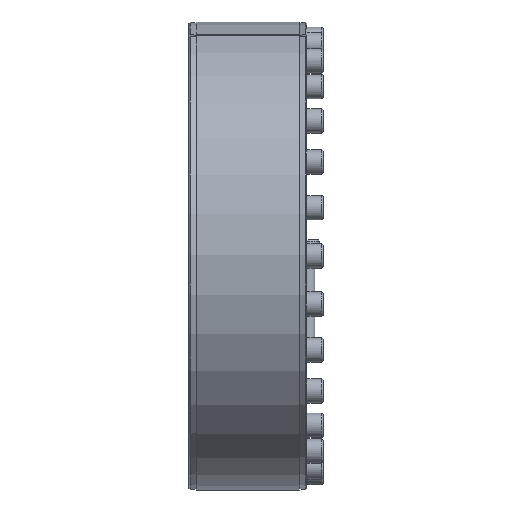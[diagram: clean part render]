
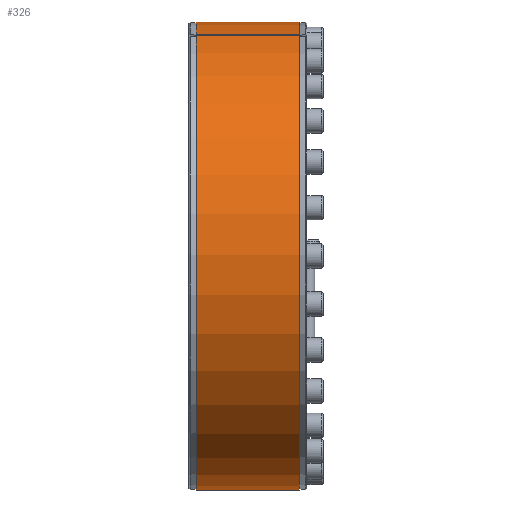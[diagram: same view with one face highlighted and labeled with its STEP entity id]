
A CAD part, left-side view. The second image highlights one B-rep face of the part: STEP entity #326.
In plain terms, the highlighted cylindrical face has radius 317.5 mm (diameter 635 mm), a partial arc.
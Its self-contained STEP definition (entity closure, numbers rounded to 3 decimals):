
#326 = ADVANCED_FACE( '', ( #839 ), #840, .T. );
#839 = FACE_OUTER_BOUND( '', #1491, .T. );
#840 = CYLINDRICAL_SURFACE( '', #1492, 317.5 );
#1491 = EDGE_LOOP( '', ( #2428, #2429, #2430, #2431 ) );
#1492 = AXIS2_PLACEMENT_3D( '', #2432, #2433, #2434 );
#2428 = ORIENTED_EDGE( '', *, *, #2839, .T. );
#2429 = ORIENTED_EDGE( '', *, *, #3052, .T. );
#2430 = ORIENTED_EDGE( '', *, *, #3044, .F. );
#2431 = ORIENTED_EDGE( '', *, *, #2908, .T. );
#2432 = CARTESIAN_POINT( '', ( 0., -60., 0. ) );
#2433 = DIRECTION( '', ( 0., 1., 0. ) );
#2434 = DIRECTION( '', ( 0., 0., -1. ) );
#2839 = EDGE_CURVE( '', #3318, #3316, #3319, .T. );
#2908 = EDGE_CURVE( '', #3436, #3318, #3437, .F. );
#3044 = EDGE_CURVE( '', #3436, #3650, #3651, .T. );
#3052 = EDGE_CURVE( '', #3316, #3650, #3662, .T. );
#3316 = VERTEX_POINT( '', #4041 );
#3318 = VERTEX_POINT( '', #4044 );
#3319 = CIRCLE( '', #4045, 317.5 );
#3436 = VERTEX_POINT( '', #4184 );
#3437 = LINE( '', #4185, #4186 );
#3650 = VERTEX_POINT( '', #4443 );
#3651 = CIRCLE( '', #4444, 317.5 );
#3662 = LINE( '', #4456, #4457 );
#4041 = CARTESIAN_POINT( '', ( -101.554, 150., 300.821 ) );
#4044 = CARTESIAN_POINT( '', ( -108.161, 150., 298.509 ) );
#4045 = AXIS2_PLACEMENT_3D( '', #4755, #4756, #4757 );
#4184 = CARTESIAN_POINT( '', ( -108.161, 10., 298.509 ) );
#4185 = CARTESIAN_POINT( '', ( -108.161, -60., 298.509 ) );
#4186 = VECTOR( '', #4888, 1000. );
#4443 = CARTESIAN_POINT( '', ( -101.554, 10., 300.821 ) );
#4444 = AXIS2_PLACEMENT_3D( '', #5098, #5099, #5100 );
#4456 = CARTESIAN_POINT( '', ( -101.554, -60., 300.821 ) );
#4457 = VECTOR( '', #5111, 1000. );
#4755 = CARTESIAN_POINT( '', ( 0., 150., 0. ) );
#4756 = DIRECTION( '', ( 0., -1., 0. ) );
#4757 = DIRECTION( '', ( 0., 0., -1. ) );
#4888 = DIRECTION( '', ( 0., -1., 0. ) );
#5098 = CARTESIAN_POINT( '', ( 0., 10., 0. ) );
#5099 = DIRECTION( '', ( 0., -1., 0. ) );
#5100 = DIRECTION( '', ( 0., 0., -1. ) );
#5111 = DIRECTION( '', ( 0., -1., 0. ) );
